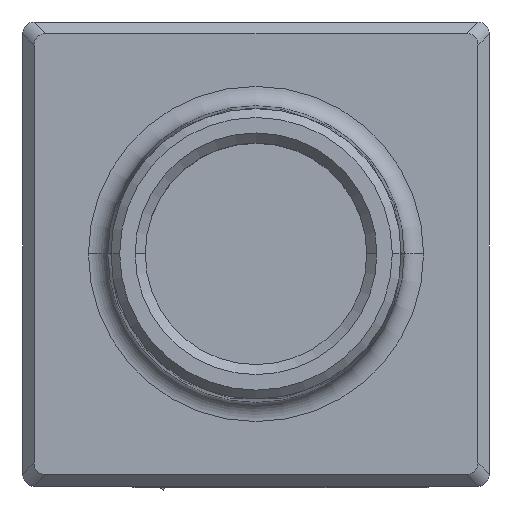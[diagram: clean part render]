
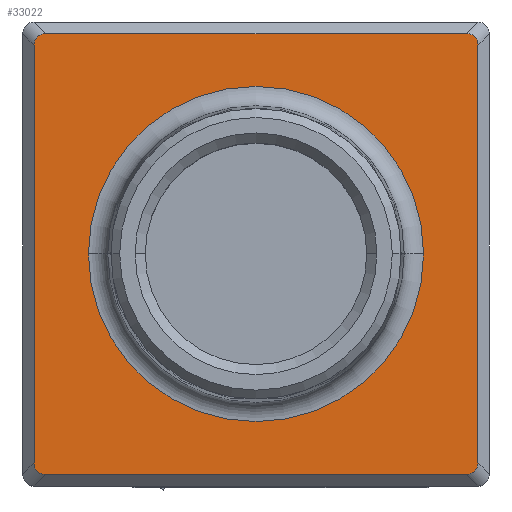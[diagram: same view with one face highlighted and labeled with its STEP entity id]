
A CAD part, top view. The second image highlights one B-rep face of the part: STEP entity #33022.
In plain terms, the highlighted planar face has unit normal (0, 0, 1).
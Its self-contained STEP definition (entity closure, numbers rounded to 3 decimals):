
#593 = ORIENTED_EDGE ( 'NONE', *, *, #128053, .T. ) ;
#1626 = AXIS2_PLACEMENT_3D ( 'NONE', #35791, #59342, #2435 ) ;
#2154 = CARTESIAN_POINT ( 'NONE',  ( 11.475, -10.794, 8. ) ) ;
#2435 = DIRECTION ( 'NONE',  ( -1., 0., 0. ) ) ;
#2709 = DIRECTION ( 'NONE',  ( -1., 0., 0. ) ) ;
#5194 = DIRECTION ( 'NONE',  ( -1., 0., 0. ) ) ;
#6597 = CARTESIAN_POINT ( 'NONE',  ( -11.475, -10.794, 8. ) ) ;
#9373 = LINE ( 'NONE', #61625, #101287 ) ;
#11255 = CARTESIAN_POINT ( 'NONE',  ( -8.666, 0., 8. ) ) ;
#11302 = CARTESIAN_POINT ( 'NONE',  ( 0., 0., 8. ) ) ;
#13043 = LINE ( 'NONE', #35369, #117280 ) ;
#19542 = CARTESIAN_POINT ( 'NONE',  ( -11.475, 10.794, 8. ) ) ;
#19968 = ORIENTED_EDGE ( 'NONE', *, *, #57534, .T. ) ;
#20041 = CARTESIAN_POINT ( 'NONE',  ( -11.255, 11.4, 8. ) ) ;
#20856 = VECTOR ( 'NONE', #21038, 1000. ) ;
#21038 = DIRECTION ( 'NONE',  ( 0., -1., 0. ) ) ;
#21598 = VERTEX_POINT ( 'NONE', #2154 ) ;
#23585 = ORIENTED_EDGE ( 'NONE', *, *, #127457, .T. ) ;
#24285 = CARTESIAN_POINT ( 'NONE',  ( 11.255, 11.4, 8. ) ) ;
#24327 = CIRCLE ( 'NONE', #89443, 8.666 ) ;
#24736 = EDGE_CURVE ( 'NONE', #114508, #21598, #115657, .T. ) ;
#33022 = ADVANCED_FACE ( 'NONE', ( #144515, #142797 ), #103273, .F. ) ;
#34707 =( BOUNDED_CURVE ( )  B_SPLINE_CURVE ( 3, ( #81148, #127261, #24285, #92648 ),
 .UNSPECIFIED., .F., .F. ) 
 B_SPLINE_CURVE_WITH_KNOTS ( ( 4, 4 ),
 ( 5.749, 6.802 ),
 .UNSPECIFIED. ) 
 CURVE ( )  GEOMETRIC_REPRESENTATION_ITEM ( )  RATIONAL_B_SPLINE_CURVE ( ( 1., 0.91, 0.91, 1. ) ) 
 REPRESENTATION_ITEM ( '' )  );
#34964 = DIRECTION ( 'NONE',  ( 0., 0., -1. ) ) ;
#35369 = CARTESIAN_POINT ( 'NONE',  ( 0., -11.4, 8. ) ) ;
#35791 = CARTESIAN_POINT ( 'NONE',  ( 0., 0., 8. ) ) ;
#37879 = CARTESIAN_POINT ( 'NONE',  ( 11.255, -11.4, 8. ) ) ;
#38002 = DIRECTION ( 'NONE',  ( 0., 0., -1. ) ) ;
#44599 = EDGE_CURVE ( 'NONE', #113210, #79509, #9373, .T. ) ;
#48430 =( BOUNDED_CURVE ( )  B_SPLINE_CURVE ( 3, ( #6597, #86572, #144687, #63451 ),
 .UNSPECIFIED., .F., .F. ) 
 B_SPLINE_CURVE_WITH_KNOTS ( ( 4, 4 ),
 ( 2.608, 3.66 ),
 .UNSPECIFIED. ) 
 CURVE ( )  GEOMETRIC_REPRESENTATION_ITEM ( )  RATIONAL_B_SPLINE_CURVE ( ( 1., 0.91, 0.91, 1. ) ) 
 REPRESENTATION_ITEM ( '' )  );
#48789 = AXIS2_PLACEMENT_3D ( 'NONE', #11302, #34964, #102297 ) ;
#50565 = VERTEX_POINT ( 'NONE', #103503 ) ;
#50972 = VERTEX_POINT ( 'NONE', #124891 ) ;
#51009 = CARTESIAN_POINT ( 'NONE',  ( 0., 0., 8. ) ) ;
#51316 = EDGE_LOOP ( 'NONE', ( #102792, #82580 ) ) ;
#54259 = CARTESIAN_POINT ( 'NONE',  ( -11.475, 0., 8. ) ) ;
#57534 = EDGE_CURVE ( 'NONE', #21598, #50565, #71811, .T. ) ;
#59342 = DIRECTION ( 'NONE',  ( 0., 0., -1. ) ) ;
#60962 = CARTESIAN_POINT ( 'NONE',  ( 11.475, -10.794, 8. ) ) ;
#61625 = CARTESIAN_POINT ( 'NONE',  ( 0., 11.4, 8. ) ) ;
#63451 = CARTESIAN_POINT ( 'NONE',  ( -10.874, -11.4, 8. ) ) ;
#67585 = EDGE_LOOP ( 'NONE', ( #79103, #121228, #19968, #130845, #94769, #91641, #593, #23585 ) ) ;
#69257 = EDGE_CURVE ( 'NONE', #50565, #113210, #34707, .T. ) ;
#71811 = LINE ( 'NONE', #114751, #140012 ) ;
#72765 = EDGE_CURVE ( 'NONE', #114157, #100079, #78274, .T. ) ;
#77389 = CARTESIAN_POINT ( 'NONE',  ( -11.475, 11.178, 8. ) ) ;
#78274 = CIRCLE ( 'NONE', #1626, 8.666 ) ;
#78375 = CARTESIAN_POINT ( 'NONE',  ( -10.874, 11.4, 8. ) ) ;
#79103 = ORIENTED_EDGE ( 'NONE', *, *, #95582, .T. ) ;
#79509 = VERTEX_POINT ( 'NONE', #95024 ) ;
#81081 = EDGE_CURVE ( 'NONE', #79509, #84869, #144161, .T. ) ;
#81148 = CARTESIAN_POINT ( 'NONE',  ( 11.475, 10.794, 8. ) ) ;
#81168 = DIRECTION ( 'NONE',  ( 0., 1., 0. ) ) ;
#82580 = ORIENTED_EDGE ( 'NONE', *, *, #72765, .T. ) ;
#84869 = VERTEX_POINT ( 'NONE', #106776 ) ;
#86572 = CARTESIAN_POINT ( 'NONE',  ( -11.475, -11.178, 8. ) ) ;
#89443 = AXIS2_PLACEMENT_3D ( 'NONE', #51009, #38002, #5194 ) ;
#91641 = ORIENTED_EDGE ( 'NONE', *, *, #81081, .T. ) ;
#92648 = CARTESIAN_POINT ( 'NONE',  ( 10.874, 11.4, 8. ) ) ;
#92863 = CARTESIAN_POINT ( 'NONE',  ( -11.475, -10.794, 8. ) ) ;
#94769 = ORIENTED_EDGE ( 'NONE', *, *, #44599, .T. ) ;
#95024 = CARTESIAN_POINT ( 'NONE',  ( -10.874, 11.4, 8. ) ) ;
#95582 = EDGE_CURVE ( 'NONE', #50972, #114508, #13043, .T. ) ;
#100079 = VERTEX_POINT ( 'NONE', #11255 ) ;
#101287 = VECTOR ( 'NONE', #2709, 1000. ) ;
#102297 = DIRECTION ( 'NONE',  ( -1., 0., 0. ) ) ;
#102792 = ORIENTED_EDGE ( 'NONE', *, *, #114741, .T. ) ;
#103273 = PLANE ( 'NONE',  #48789 ) ;
#103503 = CARTESIAN_POINT ( 'NONE',  ( 11.475, 10.794, 8. ) ) ;
#104820 = VERTEX_POINT ( 'NONE', #92863 ) ;
#106776 = CARTESIAN_POINT ( 'NONE',  ( -11.475, 10.794, 8. ) ) ;
#111914 = CARTESIAN_POINT ( 'NONE',  ( 10.874, -11.4, 8. ) ) ;
#113210 = VERTEX_POINT ( 'NONE', #132911 ) ;
#114157 = VERTEX_POINT ( 'NONE', #118018 ) ;
#114508 = VERTEX_POINT ( 'NONE', #111914 ) ;
#114741 = EDGE_CURVE ( 'NONE', #100079, #114157, #24327, .T. ) ;
#114751 = CARTESIAN_POINT ( 'NONE',  ( 11.475, 0., 8. ) ) ;
#115657 =( BOUNDED_CURVE ( )  B_SPLINE_CURVE ( 3, ( #140741, #37879, #129783, #60962 ),
 .UNSPECIFIED., .F., .T. ) 
 B_SPLINE_CURVE_WITH_KNOTS ( ( 4, 4 ),
 ( 5.765, 6.817 ),
 .UNSPECIFIED. ) 
 CURVE ( )  GEOMETRIC_REPRESENTATION_ITEM ( )  RATIONAL_B_SPLINE_CURVE ( ( 1., 0.91, 0.91, 1. ) ) 
 REPRESENTATION_ITEM ( '' )  );
#117280 = VECTOR ( 'NONE', #127723, 1000. ) ;
#118018 = CARTESIAN_POINT ( 'NONE',  ( 8.666, 0., 8. ) ) ;
#121228 = ORIENTED_EDGE ( 'NONE', *, *, #24736, .T. ) ;
#124891 = CARTESIAN_POINT ( 'NONE',  ( -10.874, -11.4, 8. ) ) ;
#126935 = LINE ( 'NONE', #54259, #20856 ) ;
#127261 = CARTESIAN_POINT ( 'NONE',  ( 11.475, 11.178, 8. ) ) ;
#127457 = EDGE_CURVE ( 'NONE', #104820, #50972, #48430, .T. ) ;
#127723 = DIRECTION ( 'NONE',  ( 1., 0., 0. ) ) ;
#128053 = EDGE_CURVE ( 'NONE', #84869, #104820, #126935, .T. ) ;
#129783 = CARTESIAN_POINT ( 'NONE',  ( 11.475, -11.178, 8. ) ) ;
#130845 = ORIENTED_EDGE ( 'NONE', *, *, #69257, .T. ) ;
#132911 = CARTESIAN_POINT ( 'NONE',  ( 10.874, 11.4, 8. ) ) ;
#140012 = VECTOR ( 'NONE', #81168, 1000. ) ;
#140741 = CARTESIAN_POINT ( 'NONE',  ( 10.874, -11.4, 8. ) ) ;
#142797 = FACE_OUTER_BOUND ( 'NONE', #67585, .T. ) ;
#144161 =( BOUNDED_CURVE ( )  B_SPLINE_CURVE ( 3, ( #78375, #20041, #77389, #19542 ),
 .UNSPECIFIED., .F., .F. ) 
 B_SPLINE_CURVE_WITH_KNOTS ( ( 4, 4 ),
 ( 2.623, 3.675 ),
 .UNSPECIFIED. ) 
 CURVE ( )  GEOMETRIC_REPRESENTATION_ITEM ( )  RATIONAL_B_SPLINE_CURVE ( ( 1., 0.91, 0.91, 1. ) ) 
 REPRESENTATION_ITEM ( '' )  );
#144515 = FACE_BOUND ( 'NONE', #51316, .T. ) ;
#144687 = CARTESIAN_POINT ( 'NONE',  ( -11.255, -11.4, 8. ) ) ;
